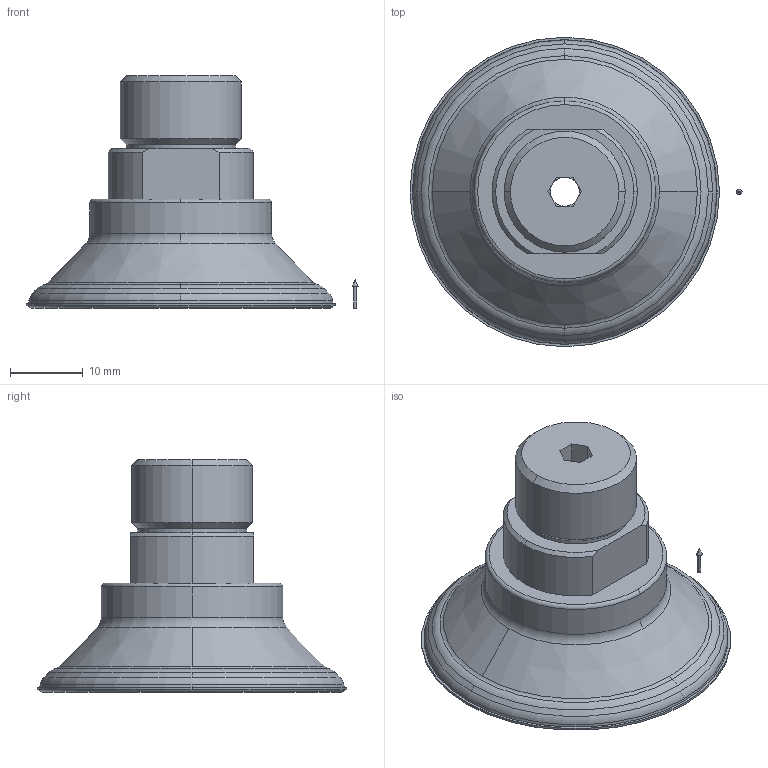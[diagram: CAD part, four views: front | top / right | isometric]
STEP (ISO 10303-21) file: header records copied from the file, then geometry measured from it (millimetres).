
FILE_DESCRIPTION(('STEP AP214'),'1');
FILE_NAME('10_01_01_11106.stp','2020-10-24T00:25:00',('TraceParts'),('TraceParts S.A.'),'Spatial InterOp 3D',' ',' ');
FILE_SCHEMA(('AUTOMOTIVE_DESIGN { 1 0 10303 214 1 1 1 1 }'));
Length unit declared in the file: millimetre
Products named in the file (1): 10_01_01_11106_1
Bounding box: 45.7 x 42.6 x 32 mm (x, y, z)
Volume: 10823 mm3; surface area: 6002.2 mm2
Topology: 2 solids, 3 shells, 116 faces, 272 edges, 171 vertices
Faces by surface type: cone 32, cylinder 30, plane 30, torus 24
Entity records: 4324 total; most frequent: DIRECTION 678, CARTESIAN_POINT 567, ORIENTED_EDGE 540, AXIS2_PLACEMENT_3D 294, EDGE_CURVE 270, CIRCLE 176, VERTEX_POINT 171, EDGE_LOOP 131
